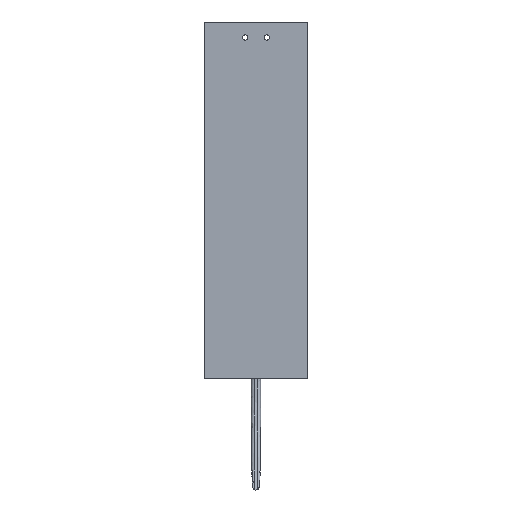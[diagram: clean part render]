
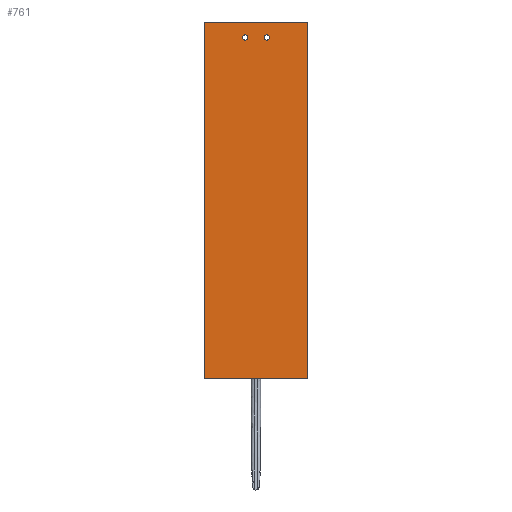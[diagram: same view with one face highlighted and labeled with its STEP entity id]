
A CAD part, top view. The second image highlights one B-rep face of the part: STEP entity #761.
In plain terms, the highlighted planar face has unit normal (0, 0, 1).
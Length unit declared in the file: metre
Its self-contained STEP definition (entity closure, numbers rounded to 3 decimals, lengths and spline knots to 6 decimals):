
#12=CIRCLE('',#803,0.0017);
#14=CIRCLE('',#807,0.0017);
#149=ORIENTED_EDGE('',*,*,#343,.F.);
#150=ORIENTED_EDGE('',*,*,#347,.T.);
#151=ORIENTED_EDGE('',*,*,#350,.T.);
#152=ORIENTED_EDGE('',*,*,#354,.F.);
#153=ORIENTED_EDGE('',*,*,#351,.F.);
#154=ORIENTED_EDGE('',*,*,#355,.F.);
#343=EDGE_CURVE('',#445,#446,#495,.T.);
#347=EDGE_CURVE('',#445,#448,#499,.T.);
#350=EDGE_CURVE('',#448,#450,#502,.T.);
#351=EDGE_CURVE('',#451,#451,#12,.T.);
#354=EDGE_CURVE('',#446,#450,#504,.T.);
#355=EDGE_CURVE('',#453,#453,#14,.T.);
#445=VERTEX_POINT('',#4200);
#446=VERTEX_POINT('',#4202);
#448=VERTEX_POINT('',#4208);
#450=VERTEX_POINT('',#4214);
#451=VERTEX_POINT('',#4218);
#453=VERTEX_POINT('',#4226);
#495=LINE('',#4201,#565);
#499=LINE('',#4209,#569);
#502=LINE('',#4215,#572);
#504=LINE('',#4223,#574);
#565=VECTOR('',#867,1.);
#569=VECTOR('',#873,1.);
#572=VECTOR('',#878,1.);
#574=VECTOR('',#888,1.);
#631=EDGE_LOOP('',(#149,#150,#151,#152));
#632=EDGE_LOOP('',(#153));
#633=EDGE_LOOP('',(#154));
#683=FACE_BOUND('',#631,.T.);
#684=FACE_BOUND('',#632,.T.);
#685=FACE_BOUND('',#633,.T.);
#721=PLANE('',#809);
#761=ADVANCED_FACE('',(#683,#684,#685),#721,.T.);
#803=AXIS2_PLACEMENT_3D('',#4217,#881,#882);
#807=AXIS2_PLACEMENT_3D('',#4225,#891,#892);
#809=AXIS2_PLACEMENT_3D('',#4229,#895,#896);
#867=DIRECTION('',(0.,1.,0.));
#873=DIRECTION('',(1.,0.,0.));
#878=DIRECTION('',(0.,1.,0.));
#881=DIRECTION('',(0.,0.,1.));
#882=DIRECTION('',(1.,0.,0.));
#888=DIRECTION('',(1.,0.,0.));
#891=DIRECTION('',(0.,0.,1.));
#892=DIRECTION('',(1.,0.,0.));
#895=DIRECTION('',(0.,0.,1.));
#896=DIRECTION('',(1.,0.,0.));
#4200=CARTESIAN_POINT('',(0.239458,0.109742,0.0025));
#4201=CARTESIAN_POINT('',(0.239458,0.224742,0.0025));
#4202=CARTESIAN_POINT('',(0.239458,0.339742,0.0025));
#4208=CARTESIAN_POINT('',(0.306458,0.109742,0.0025));
#4209=CARTESIAN_POINT('',(0.272958,0.109742,0.0025));
#4214=CARTESIAN_POINT('',(0.306458,0.339742,0.0025));
#4215=CARTESIAN_POINT('',(0.306458,0.224742,0.0025));
#4217=CARTESIAN_POINT('',(0.279958,0.329742,0.0025));
#4218=CARTESIAN_POINT('',(0.281658,0.329742,0.0025));
#4223=CARTESIAN_POINT('',(0.272958,0.339742,0.0025));
#4225=CARTESIAN_POINT('',(0.265958,0.329742,0.0025));
#4226=CARTESIAN_POINT('',(0.267658,0.329742,0.0025));
#4229=CARTESIAN_POINT('',(0.272958,0.224742,0.0025));
